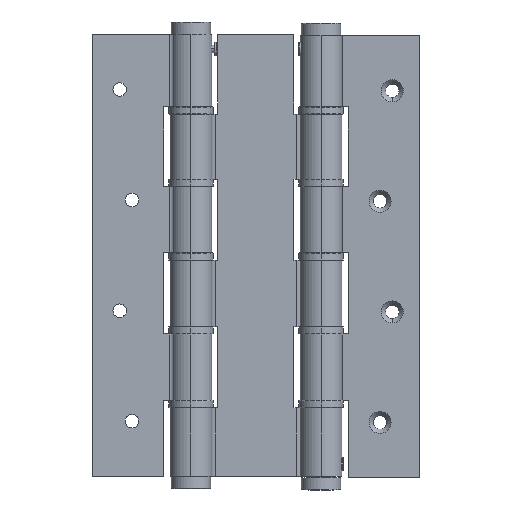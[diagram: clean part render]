
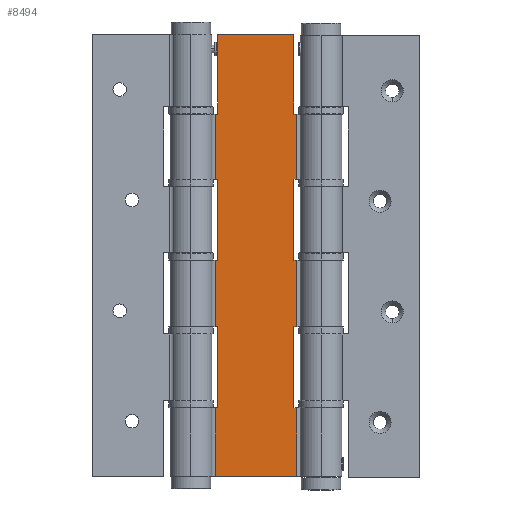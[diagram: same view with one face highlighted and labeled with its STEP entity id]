
A CAD part, front view. The second image highlights one B-rep face of the part: STEP entity #8494.
In plain terms, the highlighted planar face has unit normal (0, -1, 0) as drawn and (-1, 0, 0) by its records, which use the part's own axes.
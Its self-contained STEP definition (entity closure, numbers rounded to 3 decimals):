
#7028=CARTESIAN_POINT('',(-1.202,5.383,30.0));
#7029=VERTEX_POINT('',#7028);
#7036=CARTESIAN_POINT('',(-1.202,4.193,30.0));
#7037=VERTEX_POINT('',#7036);
#7038=CARTESIAN_POINT('',(-1.202,4.193,30.0));
#7039=DIRECTION('',(0.0,1.0,0.0));
#7040=VECTOR('',#7039,1.191);
#7041=LINE('',#7038,#7040);
#7042=EDGE_CURVE('',#7037,#7029,#7041,.T.);
#7100=CARTESIAN_POINT('',(-1.202,5.383,63.));
#7101=VERTEX_POINT('',#7100);
#7108=CARTESIAN_POINT('',(-1.202,5.383,30.0));
#7109=DIRECTION('',(0.0,0.0,1.0));
#7110=VECTOR('',#7109,33.);
#7111=LINE('',#7108,#7110);
#7112=EDGE_CURVE('',#7029,#7101,#7111,.T.);
#7164=CARTESIAN_POINT('',(-1.202,4.193,63.0));
#7165=VERTEX_POINT('',#7164);
#7173=CARTESIAN_POINT('',(-1.202,5.383,63.));
#7174=DIRECTION('',(0.0,-1.0,0.0));
#7175=VECTOR('',#7174,1.191);
#7176=LINE('',#7173,#7175);
#7177=EDGE_CURVE('',#7101,#7165,#7176,.T.);
#7198=CARTESIAN_POINT('',(-1.202,36.383,63.));
#7199=VERTEX_POINT('',#7198);
#7206=CARTESIAN_POINT('',(-1.202,37.492,63.));
#7207=VERTEX_POINT('',#7206);
#7208=CARTESIAN_POINT('',(-1.202,37.492,63.));
#7209=DIRECTION('',(0.0,-1.0,0.0));
#7210=VECTOR('',#7209,1.109);
#7211=LINE('',#7208,#7210);
#7212=EDGE_CURVE('',#7207,#7199,#7211,.T.);
#7305=CARTESIAN_POINT('',(-1.202,37.492,30.0));
#7306=VERTEX_POINT('',#7305);
#7314=CARTESIAN_POINT('',(-1.202,36.383,30.0));
#7315=VERTEX_POINT('',#7314);
#7316=CARTESIAN_POINT('',(-1.202,36.383,30.0));
#7317=DIRECTION('',(0.0,1.0,0.0));
#7318=VECTOR('',#7317,1.109);
#7319=LINE('',#7316,#7318);
#7320=EDGE_CURVE('',#7315,#7306,#7319,.T.);
#7343=CARTESIAN_POINT('',(-1.202,36.383,63.));
#7344=DIRECTION('',(0.0,0.0,-1.0));
#7345=VECTOR('',#7344,33.);
#7346=LINE('',#7343,#7345);
#7347=EDGE_CURVE('',#7199,#7315,#7346,.T.);
#7358=CARTESIAN_POINT('',(-1.202,36.383,89.5));
#7359=VERTEX_POINT('',#7358);
#7360=CARTESIAN_POINT('',(-1.202,37.492,89.5));
#7361=VERTEX_POINT('',#7360);
#7362=CARTESIAN_POINT('',(-1.202,36.383,89.5));
#7363=DIRECTION('',(0.0,1.0,0.0));
#7364=VECTOR('',#7363,1.109);
#7365=LINE('',#7362,#7364);
#7366=EDGE_CURVE('',#7359,#7361,#7365,.T.);
#7432=CARTESIAN_POINT('',(-1.202,36.383,122.0));
#7433=VERTEX_POINT('',#7432);
#7434=CARTESIAN_POINT('',(-1.202,36.383,122.0));
#7435=DIRECTION('',(0.0,0.0,-1.0));
#7436=VECTOR('',#7435,32.5);
#7437=LINE('',#7434,#7436);
#7438=EDGE_CURVE('',#7433,#7359,#7437,.T.);
#7473=CARTESIAN_POINT('',(-1.202,5.383,89.5));
#7474=VERTEX_POINT('',#7473);
#7481=CARTESIAN_POINT('',(-1.202,4.193,89.5));
#7482=VERTEX_POINT('',#7481);
#7483=CARTESIAN_POINT('',(-1.202,4.193,89.5));
#7484=DIRECTION('',(0.0,1.0,0.0));
#7485=VECTOR('',#7484,1.191);
#7486=LINE('',#7483,#7485);
#7487=EDGE_CURVE('',#7482,#7474,#7486,.T.);
#7545=CARTESIAN_POINT('',(-1.202,5.383,122.0));
#7546=VERTEX_POINT('',#7545);
#7553=CARTESIAN_POINT('',(-1.202,5.383,89.5));
#7554=DIRECTION('',(0.0,0.0,1.0));
#7555=VECTOR('',#7554,32.5);
#7556=LINE('',#7553,#7555);
#7557=EDGE_CURVE('',#7474,#7546,#7556,.T.);
#7578=CARTESIAN_POINT('',(-1.202,36.383,3.));
#7579=VERTEX_POINT('',#7578);
#7586=CARTESIAN_POINT('',(-1.202,37.492,3.));
#7587=VERTEX_POINT('',#7586);
#7588=CARTESIAN_POINT('',(-1.202,37.492,3.));
#7589=DIRECTION('',(0.0,-1.0,0.0));
#7590=VECTOR('',#7589,1.109);
#7591=LINE('',#7588,#7590);
#7592=EDGE_CURVE('',#7587,#7579,#7591,.T.);
#7685=CARTESIAN_POINT('',(-1.202,37.492,-30.));
#7686=VERTEX_POINT('',#7685);
#7694=CARTESIAN_POINT('',(-1.202,36.383,-30.));
#7695=VERTEX_POINT('',#7694);
#7696=CARTESIAN_POINT('',(-1.202,36.383,-30.));
#7697=DIRECTION('',(0.0,1.0,0.0));
#7698=VECTOR('',#7697,1.109);
#7699=LINE('',#7696,#7698);
#7700=EDGE_CURVE('',#7695,#7686,#7699,.T.);
#7723=CARTESIAN_POINT('',(-1.202,36.383,3.));
#7724=DIRECTION('',(0.0,0.0,-1.0));
#7725=VECTOR('',#7724,33.);
#7726=LINE('',#7723,#7725);
#7727=EDGE_CURVE('',#7579,#7695,#7726,.T.);
#7748=CARTESIAN_POINT('',(-1.202,5.383,-30.0));
#7749=VERTEX_POINT('',#7748);
#7756=CARTESIAN_POINT('',(-1.202,4.193,-30.0));
#7757=VERTEX_POINT('',#7756);
#7758=CARTESIAN_POINT('',(-1.202,4.193,-30.0));
#7759=DIRECTION('',(0.0,1.0,0.0));
#7760=VECTOR('',#7759,1.191);
#7761=LINE('',#7758,#7760);
#7762=EDGE_CURVE('',#7757,#7749,#7761,.T.);
#7820=CARTESIAN_POINT('',(-1.202,5.383,3.0));
#7821=VERTEX_POINT('',#7820);
#7828=CARTESIAN_POINT('',(-1.202,5.383,-30.0));
#7829=DIRECTION('',(0.0,0.0,1.0));
#7830=VECTOR('',#7829,33.0);
#7831=LINE('',#7828,#7830);
#7832=EDGE_CURVE('',#7749,#7821,#7831,.T.);
#7884=CARTESIAN_POINT('',(-1.202,4.193,3.));
#7885=VERTEX_POINT('',#7884);
#7893=CARTESIAN_POINT('',(-1.202,5.383,3.0));
#7894=DIRECTION('',(0.0,-1.0,0.0));
#7895=VECTOR('',#7894,1.191);
#7896=LINE('',#7893,#7895);
#7897=EDGE_CURVE('',#7821,#7885,#7896,.T.);
#8111=CARTESIAN_POINT('',(-1.202,37.492,-58.0));
#8112=VERTEX_POINT('',#8111);
#8120=CARTESIAN_POINT('',(-1.202,37.492,-58.0));
#8121=DIRECTION('',(0.0,0.0,1.0));
#8122=VECTOR('',#8121,28.);
#8123=LINE('',#8120,#8122);
#8124=EDGE_CURVE('',#8112,#7686,#8123,.T.);
#8137=CARTESIAN_POINT('',(-1.202,37.492,3.));
#8138=DIRECTION('',(0.0,0.0,1.0));
#8139=VECTOR('',#8138,27.);
#8140=LINE('',#8137,#8139);
#8141=EDGE_CURVE('',#7587,#7306,#8140,.T.);
#8152=CARTESIAN_POINT('',(-1.202,37.492,63.));
#8153=DIRECTION('',(0.0,0.0,1.0));
#8154=VECTOR('',#8153,26.5);
#8155=LINE('',#8152,#8154);
#8156=EDGE_CURVE('',#7207,#7361,#8155,.T.);
#8312=CARTESIAN_POINT('',(-1.202,4.193,-58.0));
#8313=VERTEX_POINT('',#8312);
#8314=CARTESIAN_POINT('',(-1.202,4.193,-58.0));
#8315=DIRECTION('',(0.0,0.0,1.0));
#8316=VECTOR('',#8315,28.0);
#8317=LINE('',#8314,#8316);
#8318=EDGE_CURVE('',#8313,#7757,#8317,.T.);
#8344=CARTESIAN_POINT('',(-1.202,4.193,3.));
#8345=DIRECTION('',(0.0,0.0,1.0));
#8346=VECTOR('',#8345,27.);
#8347=LINE('',#8344,#8346);
#8348=EDGE_CURVE('',#7885,#7037,#8347,.T.);
#8444=CARTESIAN_POINT('',(-1.202,4.193,63.0));
#8445=DIRECTION('',(0.0,0.0,1.0));
#8446=VECTOR('',#8445,26.5);
#8447=LINE('',#8444,#8446);
#8448=EDGE_CURVE('',#7165,#7482,#8447,.T.);
#8453=CARTESIAN_POINT('',(-1.202,4.193,-58.0));
#8454=DIRECTION('',(-1.0,0.0,0.0));
#8455=DIRECTION('',(0.0,0.0,1.0));
#8456=AXIS2_PLACEMENT_3D('',#8453,#8454,#8455);
#8457=PLANE('',#8456);
#8458=ORIENTED_EDGE('',*,*,#7177,.T.);
#8459=ORIENTED_EDGE('',*,*,#8448,.T.);
#8460=ORIENTED_EDGE('',*,*,#7487,.T.);
#8461=ORIENTED_EDGE('',*,*,#7557,.T.);
#8462=CARTESIAN_POINT('',(-1.202,5.383,122.0));
#8463=DIRECTION('',(0.0,1.0,0.0));
#8464=VECTOR('',#8463,31.);
#8465=LINE('',#8462,#8464);
#8466=EDGE_CURVE('',#7546,#7433,#8465,.T.);
#8467=ORIENTED_EDGE('',*,*,#8466,.T.);
#8468=ORIENTED_EDGE('',*,*,#7438,.T.);
#8469=ORIENTED_EDGE('',*,*,#7366,.T.);
#8470=ORIENTED_EDGE('',*,*,#8156,.F.);
#8471=ORIENTED_EDGE('',*,*,#7212,.T.);
#8472=ORIENTED_EDGE('',*,*,#7347,.T.);
#8473=ORIENTED_EDGE('',*,*,#7320,.T.);
#8474=ORIENTED_EDGE('',*,*,#8141,.F.);
#8475=ORIENTED_EDGE('',*,*,#7592,.T.);
#8476=ORIENTED_EDGE('',*,*,#7727,.T.);
#8477=ORIENTED_EDGE('',*,*,#7700,.T.);
#8478=ORIENTED_EDGE('',*,*,#8124,.F.);
#8479=CARTESIAN_POINT('',(-1.202,4.193,-58.0));
#8480=DIRECTION('',(0.0,1.0,0.0));
#8481=VECTOR('',#8480,33.299);
#8482=LINE('',#8479,#8481);
#8483=EDGE_CURVE('',#8313,#8112,#8482,.T.);
#8484=ORIENTED_EDGE('',*,*,#8483,.F.);
#8485=ORIENTED_EDGE('',*,*,#8318,.T.);
#8486=ORIENTED_EDGE('',*,*,#7762,.T.);
#8487=ORIENTED_EDGE('',*,*,#7832,.T.);
#8488=ORIENTED_EDGE('',*,*,#7897,.T.);
#8489=ORIENTED_EDGE('',*,*,#8348,.T.);
#8490=ORIENTED_EDGE('',*,*,#7042,.T.);
#8491=ORIENTED_EDGE('',*,*,#7112,.T.);
#8492=EDGE_LOOP('',(#8458,#8459,#8460,#8461,#8467,#8468,#8469,#8470,#8471,#8472,#8473,#8474,#8475,#8476,#8477,#8478,#8484,#8485,#8486,#8487,#8488,#8489,#8490,#8491));
#8493=FACE_OUTER_BOUND('',#8492,.T.);
#8494=ADVANCED_FACE('',(#8493),#8457,.T.);
